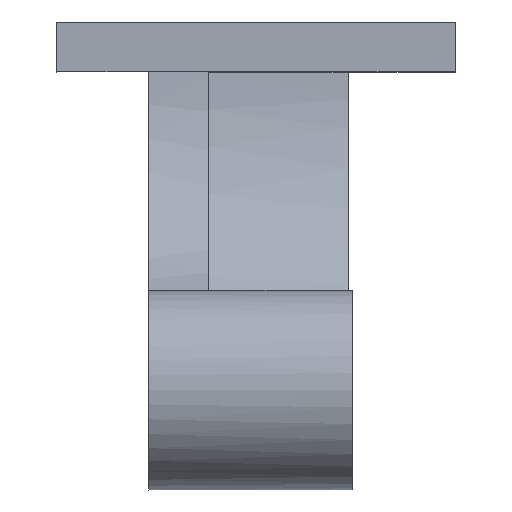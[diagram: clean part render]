
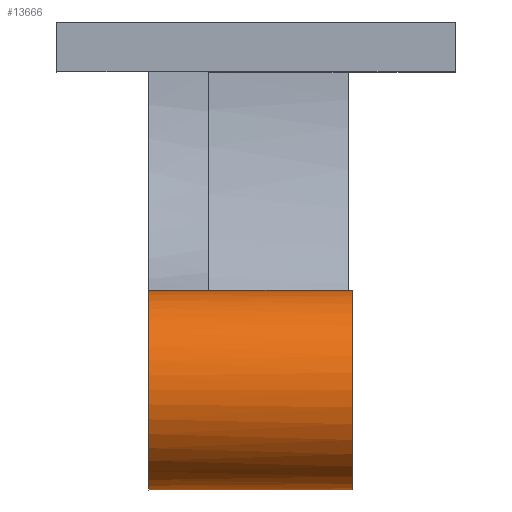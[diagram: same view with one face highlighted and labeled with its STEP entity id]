
A CAD part, top view. The second image highlights one B-rep face of the part: STEP entity #13666.
In plain terms, the highlighted free-form (B-spline) face has degree [1, 2] with [2, 5] control points.
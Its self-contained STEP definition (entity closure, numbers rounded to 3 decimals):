
#12091=CARTESIAN_POINT(' ',(103.568,12.551,148.336));
#12096=DIRECTION(' ',(-1.,0.,0.));
#12101=VECTOR(' ',#12096,1.);
#12106=LINE('',#12091,#12101);
#12111=CARTESIAN_POINT(' ',(103.568,12.551,148.336));
#12112=VERTEX_POINT(' ',#12111);
#12116=CARTESIAN_POINT(' ',(1.429,12.551,148.336));
#12117=VERTEX_POINT(' ',#12116);
#12121=EDGE_CURVE(' ',#12112,#12117,#12106,.T.);
#12276=CARTESIAN_POINT(' ',(1.429,112.551,148.336));
#12277=VERTEX_POINT(' ',#12276);
#12291=CARTESIAN_POINT(' ',(1.429,112.551,148.336));
#12296=DIRECTION(' ',(1.,0.,0.));
#12301=VECTOR(' ',#12296,1.);
#12306=LINE('',#12291,#12301);
#12311=CARTESIAN_POINT(' ',(103.568,112.551,148.336));
#12312=VERTEX_POINT(' ',#12311);
#12316=EDGE_CURVE(' ',#12277,#12312,#12306,.T.);
#13106=CARTESIAN_POINT(' ',(1.429,12.551,148.336));
#13111=CARTESIAN_POINT(' ',(1.429,12.551,198.336));
#13116=CARTESIAN_POINT(' ',(1.429,62.551,198.336));
#13121=CARTESIAN_POINT(' ',(1.429,112.551,198.336));
#13126=CARTESIAN_POINT(' ',(1.429,112.551,148.336));
#13131=CARTESIAN_POINT(' ',(103.568,12.551,148.336));
#13136=CARTESIAN_POINT(' ',(103.568,12.551,198.336));
#13141=CARTESIAN_POINT(' ',(103.568,62.551,198.336));
#13146=CARTESIAN_POINT(' ',(103.568,112.551,198.336));
#13151=CARTESIAN_POINT(' ',(103.568,112.551,148.336));
#13156=(BOUNDED_SURFACE()B_SPLINE_SURFACE(1,2,((#13106,#13111,#13116,#13121,#13126),(#13131,#13136,#13141,#13146,#13151)),.UNSPECIFIED.,.F.,.F.,.U.)B_SPLINE_SURFACE_WITH_KNOTS((2,2),(3,2,3),(0.,1.),(0.,0.5,1.),.UNSPECIFIED.)GEOMETRIC_REPRESENTATION_ITEM()RATIONAL_B_SPLINE_SURFACE(((1.,0.707,1.,0.707,1.),(1.,0.707,1.,0.707,1.)))REPRESENTATION_ITEM(' ')SURFACE());
#13161=CARTESIAN_POINT(' ',(103.568,62.551,148.334));
#13166=DIRECTION(' ',(-1.,0.,0.));
#13171=DIRECTION(' ',(0.,-1.,0.));
#13176=AXIS2_PLACEMENT_3D(' ',#13161,#13166,#13171);
#13181=CIRCLE('',#13176,50.);
#13186=EDGE_CURVE(' ',#12112,#12312,#13181,.T.);
#13191=ORIENTED_EDGE(' ',*,*,#13186,.T.);
#13196=ORIENTED_EDGE(' ',*,*,#12316,.F.);
#13201=CARTESIAN_POINT(' ',(1.429,112.551,148.336));
#13206=CARTESIAN_POINT(' ',(1.429,112.551,149.743));
#13211=CARTESIAN_POINT(' ',(1.429,112.468,151.173));
#13216=CARTESIAN_POINT(' ',(1.429,112.343,152.622));
#13221=CARTESIAN_POINT(' ',(1.429,112.218,154.072));
#13226=CARTESIAN_POINT(' ',(1.429,112.014,155.534));
#13231=CARTESIAN_POINT(' ',(1.429,111.754,157.01));
#13236=CARTESIAN_POINT(' ',(1.429,111.494,158.487));
#13241=CARTESIAN_POINT(' ',(1.429,111.162,159.968));
#13246=CARTESIAN_POINT(' ',(1.429,110.758,161.453));
#13251=CARTESIAN_POINT(' ',(1.429,110.354,162.939));
#13256=CARTESIAN_POINT(' ',(1.429,109.888,164.424));
#13261=CARTESIAN_POINT(' ',(1.429,109.335,165.898));
#13266=CARTESIAN_POINT(' ',(1.429,108.892,167.077));
#13271=CARTESIAN_POINT(' ',(1.429,108.405,168.251));
#13276=CARTESIAN_POINT(' ',(1.429,107.866,169.41));
#13281=CARTESIAN_POINT(' ',(1.429,107.219,170.802));
#13286=CARTESIAN_POINT(' ',(1.429,106.487,172.162));
#13291=CARTESIAN_POINT(' ',(1.429,105.702,173.506));
#13296=CARTESIAN_POINT(' ',(1.429,104.886,174.907));
#13301=CARTESIAN_POINT(' ',(1.429,103.997,176.27));
#13306=CARTESIAN_POINT(' ',(1.429,103.038,177.598));
#13311=CARTESIAN_POINT(' ',(1.429,102.078,178.925));
#13316=CARTESIAN_POINT(' ',(1.429,101.064,180.216));
#13321=CARTESIAN_POINT(' ',(1.429,99.972,181.449));
#13326=CARTESIAN_POINT(' ',(1.429,99.099,182.436));
#13331=CARTESIAN_POINT(' ',(1.429,98.191,183.394));
#13336=CARTESIAN_POINT(' ',(1.429,97.242,184.309));
#13341=CARTESIAN_POINT(' ',(1.429,96.103,185.407));
#13346=CARTESIAN_POINT(' ',(1.429,94.902,186.433));
#13351=CARTESIAN_POINT(' ',(1.429,93.668,187.416));
#13356=CARTESIAN_POINT(' ',(1.429,93.247,187.751));
#13361=CARTESIAN_POINT(' ',(1.429,92.836,188.098));
#13366=CARTESIAN_POINT(' ',(1.429,92.405,188.419));
#13371=CARTESIAN_POINT(' ',(1.429,92.27,188.52));
#13376=CARTESIAN_POINT(' ',(1.429,92.142,188.631));
#13381=CARTESIAN_POINT(' ',(1.429,92.006,188.73));
#13386=CARTESIAN_POINT(' ',(1.429,91.963,188.762));
#13391=CARTESIAN_POINT(' ',(1.429,91.923,188.796));
#13396=CARTESIAN_POINT(' ',(1.429,91.88,188.827));
#13401=CARTESIAN_POINT(' ',(1.429,91.857,188.844));
#13406=CARTESIAN_POINT(' ',(1.429,91.837,188.862));
#13411=CARTESIAN_POINT(' ',(1.429,91.814,188.878));
#13416=B_SPLINE_CURVE_WITH_KNOTS('',3,(#13201,#13206,#13211,#13216,#13221,#13226,#13231,#13236,#13241,#13246,#13251,#13256,#13261,#13266,#13271,#13276,#13281,#13286,#13291,#13296,#13301,#13306,#13311,#13316,#13321,#13326,#13331,#13336,#13341,#13346,#13351,#13356,#13361,#13366,#13371,#13376,#13381,#13386,#13391,#13396,#13401,#13406,#13411),.UNSPECIFIED.,.F.,.U.,(4,3,3,3,3,3,3,3,3,3,3,3,3,3,4),(0.,0.1,0.2,0.3,0.4,0.48,0.576,0.676,0.776,0.856,0.952,0.985,0.995,0.998,1.),.UNSPECIFIED.);
#13421=CARTESIAN_POINT(' ',(1.429,91.814,188.878));
#13422=VERTEX_POINT(' ',#13421);
#13426=EDGE_CURVE(' ',#12277,#13422,#13416,.T.);
#13431=ORIENTED_EDGE(' ',*,*,#13426,.T.);
#13436=CARTESIAN_POINT(' ',(1.429,91.814,188.878));
#13441=CARTESIAN_POINT(' ',(1.429,89.317,190.68));
#13446=CARTESIAN_POINT(' ',(1.429,86.668,192.229));
#13451=CARTESIAN_POINT(' ',(1.429,83.948,193.517));
#13456=CARTESIAN_POINT(' ',(1.429,80.684,195.063));
#13461=CARTESIAN_POINT(' ',(1.429,77.318,196.221));
#13466=CARTESIAN_POINT(' ',(1.429,73.968,197.007));
#13471=CARTESIAN_POINT(' ',(1.429,70.479,197.825));
#13476=CARTESIAN_POINT(' ',(1.429,67.014,198.241));
#13481=CARTESIAN_POINT(' ',(1.429,63.677,198.316));
#13486=CARTESIAN_POINT(' ',(1.429,61.007,198.376));
#13491=CARTESIAN_POINT(' ',(1.429,58.332,198.233));
#13496=CARTESIAN_POINT(' ',(1.429,55.571,197.844));
#13501=CARTESIAN_POINT(' ',(1.429,52.258,197.377));
#13506=CARTESIAN_POINT(' ',(1.429,48.881,196.553));
#13511=CARTESIAN_POINT(' ',(1.429,45.549,195.348));
#13516=CARTESIAN_POINT(' ',(1.429,42.077,194.093));
#13521=CARTESIAN_POINT(' ',(1.429,38.658,192.42));
#13526=CARTESIAN_POINT(' ',(1.429,35.439,190.343));
#13531=CARTESIAN_POINT(' ',(1.429,32.864,188.681));
#13536=CARTESIAN_POINT(' ',(1.429,30.422,186.76));
#13541=CARTESIAN_POINT(' ',(1.429,28.172,184.629));
#13546=CARTESIAN_POINT(' ',(1.429,25.472,182.072));
#13551=CARTESIAN_POINT(' ',(1.429,23.056,179.209));
#13556=CARTESIAN_POINT(' ',(1.429,21.007,176.147));
#13561=CARTESIAN_POINT(' ',(1.429,19.299,173.596));
#13566=CARTESIAN_POINT(' ',(1.429,17.846,170.911));
#13571=CARTESIAN_POINT(' ',(1.429,16.66,168.166));
#13576=CARTESIAN_POINT(' ',(1.429,15.236,164.871));
#13581=CARTESIAN_POINT(' ',(1.429,14.2,161.495));
#13586=CARTESIAN_POINT(' ',(1.429,13.531,158.154));
#13591=CARTESIAN_POINT(' ',(1.429,12.973,155.369));
#13596=CARTESIAN_POINT(' ',(1.429,12.667,152.612));
#13601=CARTESIAN_POINT(' ',(1.429,12.582,149.933));
#13606=CARTESIAN_POINT(' ',(1.429,12.568,149.502));
#13611=CARTESIAN_POINT(' ',(1.429,12.558,149.072));
#13616=CARTESIAN_POINT(' ',(1.429,12.555,148.645));
#13621=CARTESIAN_POINT(' ',(1.429,12.554,148.542));
#13626=CARTESIAN_POINT(' ',(1.429,12.551,148.439));
#13631=CARTESIAN_POINT(' ',(1.429,12.551,148.336));
#13636=B_SPLINE_CURVE_WITH_KNOTS('',3,(#13436,#13441,#13446,#13451,#13456,#13461,#13466,#13471,#13476,#13481,#13486,#13491,#13496,#13501,#13506,#13511,#13516,#13521,#13526,#13531,#13536,#13541,#13546,#13551,#13556,#13561,#13566,#13571,#13576,#13581,#13586,#13591,#13596,#13601,#13606,#13611,#13616,#13621,#13626,#13631),.UNSPECIFIED.,.F.,.U.,(4,3,3,3,3,3,3,3,3,3,3,3,3,4),(0.,0.08,0.176,0.276,0.356,0.452,0.552,0.632,0.728,0.808,0.904,0.984,0.997,1.),.UNSPECIFIED.);
#13641=EDGE_CURVE(' ',#13422,#12117,#13636,.T.);
#13646=ORIENTED_EDGE(' ',*,*,#13641,.T.);
#13651=ORIENTED_EDGE(' ',*,*,#12121,.F.);
#13656=EDGE_LOOP(' ',(#13191,#13196,#13431,#13646,#13651));
#13661=FACE_OUTER_BOUND(' ',#13656,.T.);
#13666=ADVANCED_FACE('',(#13661),#13156,.T.);
